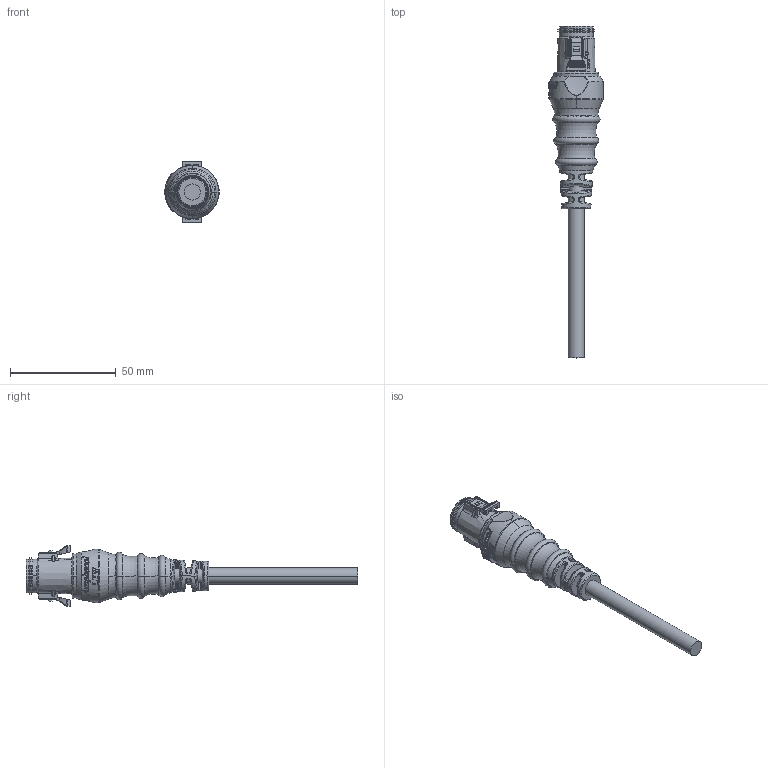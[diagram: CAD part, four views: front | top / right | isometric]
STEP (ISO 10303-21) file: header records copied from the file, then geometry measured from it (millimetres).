
FILE_DESCRIPTION((''),'2;1');
FILE_NAME('CD-XXAMMM-RL8DXX_SW0001','2021-11-01T',('K210213'),(''),'PRO/ENGINEER BY PARAMETRIC TECHNOLOGY CORPORATION, 2013050','PRO/ENGINEER BY PARAMETRIC TECHNOLOGY CORPORATION, 2013050','');
FILE_SCHEMA(('CONFIG_CONTROL_DESIGN'));
Products named in the file (1): CD-XXAMMM-RL8DXX_SW0001
Bounding box: 25.6 x 156.8 x 28.81 mm (x, y, z)
Volume: 25926 mm3; surface area: 9506 mm2
Topology: 1 solids, 1 shells, 1213 faces, 3375 edges, 2197 vertices
Faces by surface type: plane 669, extrusion 206, cylinder 148, bspline 88, torus 49, cone 35, sphere 16, revolution 2
Entity records: 48848 total; most frequent: CARTESIAN_POINT 21106, ORIENTED_EDGE 6726, DIRECTION 4149, EDGE_CURVE 3363, VERTEX_POINT 2197, B_SPLINE_CURVE_WITH_KNOTS 1909, VECTOR 1423, AXIS2_PLACEMENT_3D 1362
